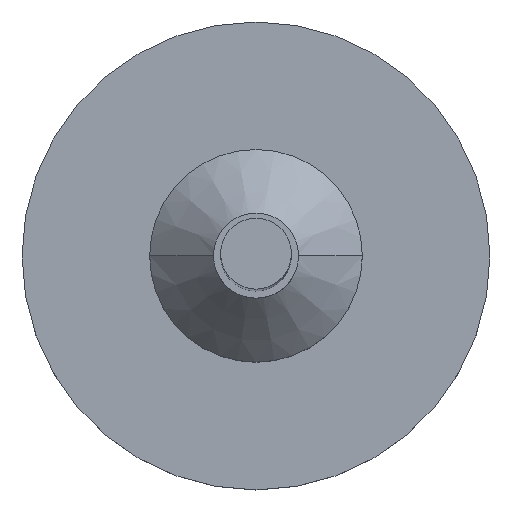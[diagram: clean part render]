
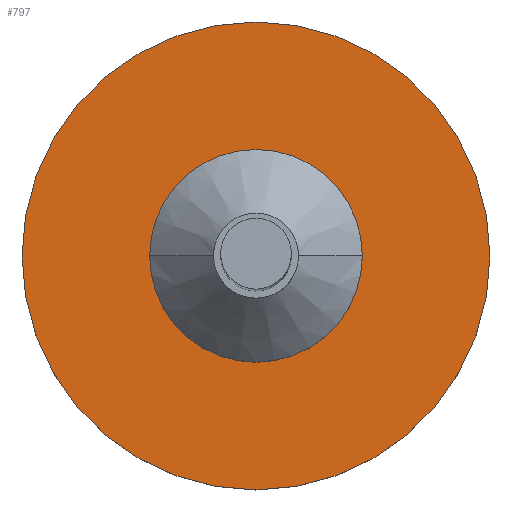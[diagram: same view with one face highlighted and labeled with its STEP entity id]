
A CAD part, top view. The second image highlights one B-rep face of the part: STEP entity #797.
In plain terms, the highlighted planar face has unit normal (0, 0, 1).
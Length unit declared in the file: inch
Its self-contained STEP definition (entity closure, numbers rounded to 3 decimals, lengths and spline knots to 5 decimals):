
#236 = EDGE_CURVE ( 'NONE', #237, #238, #474, .T. ) ;
#237 = VERTEX_POINT ( 'NONE', #513 ) ;
#238 = VERTEX_POINT ( 'NONE', #512 ) ;
#251 = VERTEX_POINT ( 'NONE', #475 ) ;
#262 = VERTEX_POINT ( 'NONE', #405 ) ;
#326 = ORIENTED_EDGE ( 'NONE', *, *, #327, .F. ) ;
#327 = EDGE_CURVE ( 'NONE', #238, #237, #552, .T. ) ;
#344 = EDGE_CURVE ( 'NONE', #262, #251, #637, .T. ) ;
#405 = CARTESIAN_POINT ( 'NONE',  ( 0.4125, 0., -0.338 ) ) ;
#471 = DIRECTION ( 'NONE',  ( 0., 0., 1. ) ) ;
#472 = CARTESIAN_POINT ( 'NONE',  ( 0., 0., -0.338 ) ) ;
#473 = AXIS2_PLACEMENT_3D ( 'NONE', #472, #471, #514 ) ;
#474 = CIRCLE ( 'NONE', #473, 0.1875 ) ;
#475 = CARTESIAN_POINT ( 'NONE',  ( -0.4125, 0., -0.338 ) ) ;
#512 = CARTESIAN_POINT ( 'NONE',  ( -0.1875, 0., -0.338 ) ) ;
#513 = CARTESIAN_POINT ( 'NONE',  ( 0.1875, 0., -0.338 ) ) ;
#514 = DIRECTION ( 'NONE',  ( 1., 0., 0. ) ) ;
#548 = DIRECTION ( 'NONE',  ( 1., 0., 0. ) ) ;
#549 = DIRECTION ( 'NONE',  ( 0., 0., 1. ) ) ;
#550 = CARTESIAN_POINT ( 'NONE',  ( 0., 0., -0.338 ) ) ;
#551 = AXIS2_PLACEMENT_3D ( 'NONE', #550, #549, #548 ) ;
#552 = CIRCLE ( 'NONE', #551, 0.1875 ) ;
#572 = CIRCLE ( 'NONE', #657, 0.4125 ) ;
#634 = DIRECTION ( 'NONE',  ( 1., 0., 0. ) ) ;
#635 = DIRECTION ( 'NONE',  ( 0., 0., 1. ) ) ;
#636 = AXIS2_PLACEMENT_3D ( 'NONE', #642, #635, #634 ) ;
#637 = CIRCLE ( 'NONE', #636, 0.4125 ) ;
#642 = CARTESIAN_POINT ( 'NONE',  ( 0., 0., -0.338 ) ) ;
#649 = CARTESIAN_POINT ( 'NONE',  ( 0.4125, 0., -0.338 ) ) ;
#650 = AXIS2_PLACEMENT_3D ( 'NONE', #649, #668, #667 ) ;
#651 = PLANE ( 'NONE',  #650 ) ;
#652 = FACE_BOUND ( 'NONE', #800, .T. ) ;
#653 = FACE_OUTER_BOUND ( 'NONE', #684, .T. ) ;
#654 = DIRECTION ( 'NONE',  ( 1., 0., 0. ) ) ;
#655 = DIRECTION ( 'NONE',  ( 0., 0., 1. ) ) ;
#656 = CARTESIAN_POINT ( 'NONE',  ( 0., 0., -0.338 ) ) ;
#657 = AXIS2_PLACEMENT_3D ( 'NONE', #656, #655, #654 ) ;
#667 = DIRECTION ( 'NONE',  ( 1., 0., 0. ) ) ;
#668 = DIRECTION ( 'NONE',  ( 0., 0., 1. ) ) ;
#684 = EDGE_LOOP ( 'NONE', ( #798, #799 ) ) ;
#691 = ORIENTED_EDGE ( 'NONE', *, *, #236, .F. ) ;
#796 = EDGE_CURVE ( 'NONE', #251, #262, #572, .T. ) ;
#797 = ADVANCED_FACE ( 'NONE', ( #653, #652 ), #651, .T. ) ;
#798 = ORIENTED_EDGE ( 'NONE', *, *, #344, .T. ) ;
#799 = ORIENTED_EDGE ( 'NONE', *, *, #796, .T. ) ;
#800 = EDGE_LOOP ( 'NONE', ( #691, #326 ) ) ;
